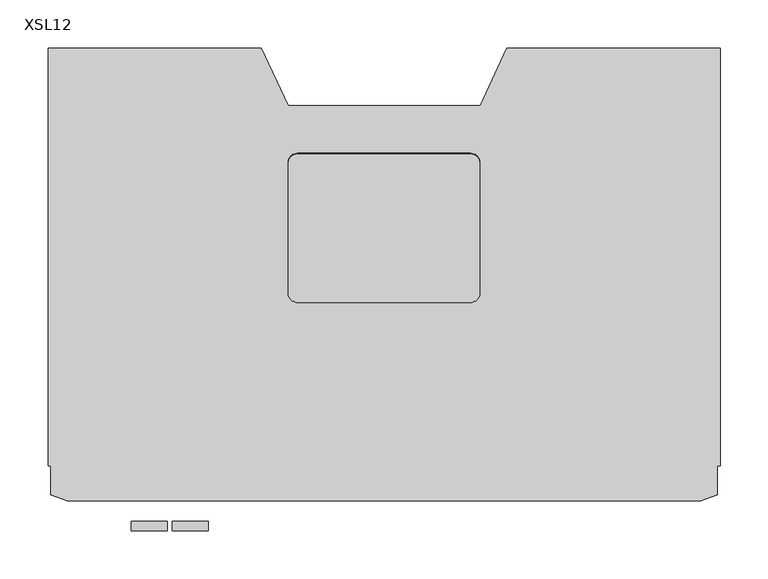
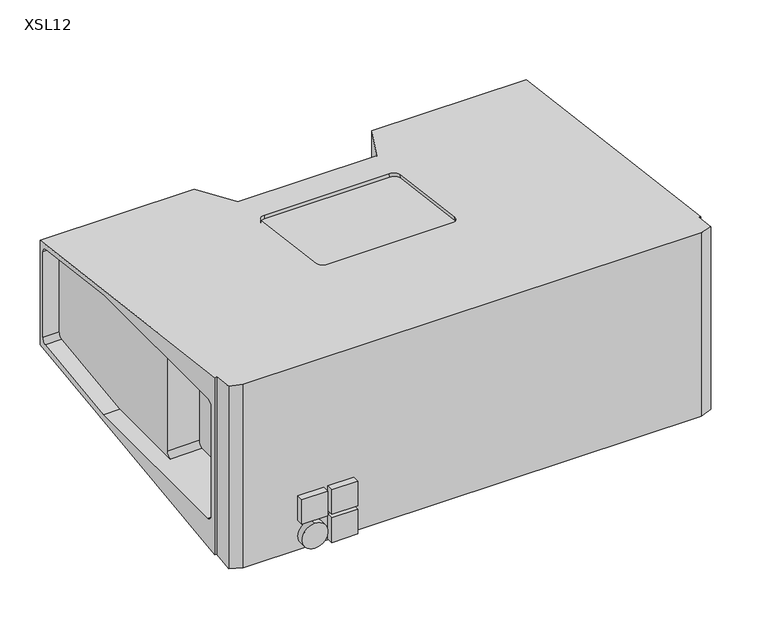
"""IFC4 building model written with IfcOpenShell, lengths in millimetres: proxy geometry, d&b SL-Series XSL : XSL12."""

from ifc_helpers import new_model, si_unit, point, frame, frame_2d, origin, place, context, project, spatial, polyline, circle_curve, trimmed, segment, composite_curve, outline, extrude, source, transform, mapped, element, save
from ifc_brep_helpers import plane_surface, revolved_surface, advanced_brep


def xsl12_ee73a5ce(model_context):
    return source(origin(), model_context, "Body", "SolidModel", [
        advanced_brep(
        [(170.2405547, -330.1244027, 146.1842209), (170.2405547, -330.1244027, -133.052445), (829.7594453, -330.1244027, -133.052445), (829.7594453, -330.1244027, 146.1842209), (153.0, -323.849354, -132.2541577), (153.0, -323.849354, 145.3859339), (153.0, -294.0371274, 141.5933401), (153.0, -294.0371274, -128.4615623), (847.0, -323.849354, -132.2541577), (847.0, -323.849354, 145.3859339), (847.0, -294.0371274, -128.4615623), (847.0, -294.0371274, 141.5933401), (850.0, -294.0371274, 141.5933401), (850.0, 141.8755973, 86.1382428), (627.9784595, 141.8755973, 86.1382428), (600.0, 81.8755973, 93.7712061), (400.0, 81.8755973, 93.7712061), (372.0215405, 141.8755973, 86.1382428), (150.0, 141.8755973, 86.1382428), (150.0, -294.0371274, 141.5933401), (599.8603516, -113.5250804, 118.6293095), (589.8603516, -123.4451299, 119.8912991), (410.1396484, -123.4451299, 119.8912991), (400.1396484, -113.5250804, 118.6293095), (400.1396484, 22.2372063, 101.3581669), (410.1396484, 32.1572558, 100.0961774), (589.8603516, 32.1572558, 100.0961774), (599.8603516, 22.2372063, 101.3581669), (150.0, -294.0371274, -128.4615623), (150.0, 141.8755973, -73.0064423), (188.4702084, 141.8755973, -73.0064423), (184.5040319, 103.3755973, -77.9042624), (348.3071546, 103.3755973, -77.9042624), (348.1361189, 141.8755973, -73.0064423), (372.0215405, 141.8755973, -73.0064423), (400.0, 81.8755973, -80.6394088), (600.0, 81.8755973, -80.6394088), (627.9784595, 141.8755973, -73.0064423), (651.8638811, 141.8755973, -73.0064423), (651.6928454, 103.3755973, -77.9042624), (815.4959681, 103.3755973, -77.9042624), (811.5297916, 141.8755973, -73.0064423), (850.0, 141.8755973, -73.0064423), (850.0, -294.0371274, -128.4615623), (780.0, -276.3744027, 99.0485291), (780.0, -283.8744027, 91.5485291), (780.0, -283.8744027, -75.4514709), (780.0, -276.3744027, -82.9514709), (780.0, -141.8744027, -82.9514709), (780.0, -134.3744027, -75.4514709), (780.0, -134.3744027, 91.5485291), (780.0, -141.8744027, 99.0485291), (220.0, -283.8744027, 91.5485291), (220.0, -276.3744027, 99.0485291), (220.0, -141.8744027, 99.0485291), (220.0, -134.3744027, 91.5485291), (220.0, -134.3744027, -75.4514709), (220.0, -141.8744027, -82.9514709), (220.0, -276.3744027, -82.9514709), (220.0, -283.8744027, -75.4514709), (797.6572273, 141.8755973, -55.8752521), (782.1143081, 141.8755973, -48.46166), (662.3778915, 141.8755973, -48.46166), (652.3839833, 141.8755973, -58.112665), (787.6572273, 141.8755973, -15.0), (797.6572273, 141.8755973, -5.0), (797.6572273, 141.8755973, 40.0), (787.6572273, 141.8755973, 50.0), (670.0, 141.8755973, 50.0), (660.0, 141.8755973, 40.0), (660.0, 141.8755973, -5.0), (670.0, 141.8755973, -15.0), (347.6160167, 141.8755973, -58.112665), (337.6221085, 141.8755973, -48.46166), (217.8856919, 141.8755973, -48.46166), (202.3427727, 141.8755973, -55.8752521), (202.3427727, 141.8755973, 40.0), (202.3427727, 141.8755973, -5.0), (212.3427727, 141.8755973, -15.0), (330.0, 141.8755973, -15.0), (340.0, 141.8755973, -5.0), (340.0, 141.8755973, 40.0), (330.0, 141.8755973, 50.0), (212.3427727, 141.8755973, 50.0), (826.4019238, -141.8744027, 99.0485291), (826.4019238, -134.3744027, 91.5485291), (826.4019238, -134.3744027, -75.4514709), (826.4019238, -141.8744027, -82.9514709), (826.4019238, -16.4238546, -82.9514709), (826.4019238, 128.1220886, -64.5629235), (826.4019238, 134.6755973, -57.1228863), (826.4019238, 134.6755973, 73.2200667), (826.4019238, 128.1220886, 80.6601039), (826.4019238, -16.422895, 99.0485291), (826.4019238, -276.3744027, 99.0485291), (826.4019238, -283.8744027, 91.5485291), (850.0, -283.8744027, 91.5485291), (850.0, -283.8744027, -75.4514709), (826.4019238, -283.8744027, -75.4514709), (826.4019238, -276.3744027, -82.9514709), (850.0, -276.3744027, -82.9514709), (850.0, -16.4238546, -82.9514709), (850.0, -16.422895, 99.0485291), (850.0, -276.3744027, 99.0485291), (850.0, 128.1220886, 80.6601039), (850.0, 134.6755973, 73.2200667), (850.0, 134.6755973, -57.1228863), (850.0, 128.1220886, -64.5629235), (173.5980762, -141.8744027, -82.9514709), (173.5980762, -134.3744027, -75.4514709), (173.5980762, -134.3744027, 91.5485291), (173.5980762, -141.8744027, 99.0485291), (173.5980762, -16.422895, 99.0485291), (173.5980762, 128.1220886, 80.6601039), (173.5980762, 134.6755973, 73.2200667), (173.5980762, 134.6755973, -57.1228863), (173.5980762, 128.1220886, -64.5629235), (173.5980762, -16.4238546, -82.9514709), (173.5980762, -283.8744027, 91.5485291), (173.5980762, -276.3744027, 99.0485291), (173.5980762, -283.8744027, -75.4514709), (150.0, -283.8744027, -75.4514709), (150.0, -283.8744027, 91.5485291), (173.5980762, -276.3744027, -82.9514709), (150.0, -16.4238546, -82.9514709), (150.0, -276.3744027, -82.9514709), (150.0, -276.3744027, 99.0485291), (150.0, -16.422895, 99.0485291), (150.0, 128.1220886, -64.5629235), (150.0, 134.6755973, -57.1228863), (150.0, 134.6755973, 73.2200667), (150.0, 128.1220886, 80.6601039), (337.6221085, 103.3755973, -48.46166), (347.6160167, 103.3755973, -58.112665), (202.3427727, 103.3755973, -55.8752521), (217.8856919, 103.3755973, -48.46166), (662.3778915, 103.3755973, -48.46166), (782.1143081, 103.3755973, -48.46166), (797.6572273, 103.3755973, -55.8752521), (652.3839833, 103.3755973, -58.112665), (589.8603516, -124.0761247, 114.9312743), (599.8603516, -114.1560752, 113.6692848), (599.8603516, 21.6062115, 96.3981422), (589.8603516, 31.526261, 95.1361526), (410.1396484, 31.526261, 95.1361526), (400.1396484, 21.6062115, 96.3981422), (400.1396484, -114.1560752, 113.6692848), (410.1396484, -124.0761247, 114.9312743), (797.6572273, 136.8755973, -5.0), (787.6572273, 136.8755973, -15.0), (670.0, 136.8755973, -15.0), (660.0, 136.8755973, -5.0), (660.0, 136.8755973, 40.0), (670.0, 136.8755973, 50.0), (787.6572273, 136.8755973, 50.0), (797.6572273, 136.8755973, 40.0), (202.3427727, 136.8755973, -5.0), (202.3427727, 136.8755973, 40.0), (212.3427727, 136.8755973, 50.0), (330.0, 136.8755973, 50.0), (340.0, 136.8755973, 40.0), (340.0, 136.8755973, -5.0), (330.0, 136.8755973, -15.0), (212.3427727, 136.8755973, -15.0)],
        [
            (0, 1),
            (1, 2),
            (2, 3),
            (3, 0),
            (4, 5),
            (5, 6),
            (6, 7),
            (7, 4),
            (0, 5),
            (4, 1),
            (2, 8),
            (8, 9),
            (9, 3),
            (8, 10),
            (10, 11),
            (11, 9),
            (11, 12),
            (12, 13),
            (13, 14),
            (14, 15),
            (15, 16),
            (16, 17),
            (17, 18),
            (18, 19),
            (19, 6),
            (20, 21, circle_curve(frame((589.8603516, -113.5250804, 118.6293095), z_axis=(0.0, -0.12619895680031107, -0.9920049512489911), x_axis=(0.0, 0.9920049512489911, -0.12619895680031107)), 10.0)),
            (21, 22),
            (22, 23, circle_curve(frame((410.1396484, -113.5250804, 118.6293095), z_axis=(0.0, -0.12619895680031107, -0.9920049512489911), x_axis=(0.0, 0.9920049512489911, -0.12619895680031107)), 10.0)),
            (23, 24),
            (24, 25, circle_curve(frame((410.1396484, 22.2372063, 101.3581669), z_axis=(0.0, -0.12619895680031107, -0.9920049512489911), x_axis=(0.0, 0.9920049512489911, -0.12619895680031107)), 10.0)),
            (25, 26),
            (26, 27, circle_curve(frame((589.8603516, 22.2372063, 101.3581669), z_axis=(0.0, -0.12619895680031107, -0.9920049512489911), x_axis=(0.0, 0.9920049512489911, -0.12619895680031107)), 10.0)),
            (27, 20),
            (7, 28),
            (28, 29),
            (29, 30),
            (30, 31),
            (31, 32),
            (32, 33),
            (33, 34),
            (34, 35),
            (35, 36),
            (36, 37),
            (37, 38),
            (38, 39),
            (39, 40),
            (40, 41),
            (41, 42),
            (42, 43),
            (43, 10),
            (44, 45, circle_curve(frame((780.0, -276.3744027, 91.5485291), z_axis=(1.0, 0.0, 0.0), x_axis=(0.0, 1.0, 0.0)), 7.5)),
            (45, 46),
            (46, 47, circle_curve(frame((780.0, -276.3744027, -75.4514709), z_axis=(1.0, 0.0, 0.0), x_axis=(0.0, 1.0, 0.0)), 7.5)),
            (47, 48),
            (48, 49, circle_curve(frame((780.0, -141.8744027, -75.4514709), z_axis=(1.0, 0.0, 0.0), x_axis=(0.0, 1.0, 0.0)), 7.5)),
            (49, 50),
            (50, 51, circle_curve(frame((780.0, -141.8744027, 91.5485291), z_axis=(1.0, 0.0, 0.0), x_axis=(0.0, 1.0, 0.0)), 7.5)),
            (51, 44),
            (52, 53, circle_curve(frame((220.0, -276.3744027, 91.5485291), z_axis=(-1.0, 0.0, 0.0), x_axis=(0.0, 1.0, 0.0)), 7.5)),
            (53, 54),
            (54, 55, circle_curve(frame((220.0, -141.8744027, 91.5485291), z_axis=(-1.0, 0.0, 0.0), x_axis=(0.0, 1.0, 0.0)), 7.5)),
            (55, 56),
            (56, 57, circle_curve(frame((220.0, -141.8744027, -75.4514709), z_axis=(-1.0, 0.0, 0.0), x_axis=(0.0, 1.0, 0.0)), 7.5)),
            (57, 58),
            (58, 59, circle_curve(frame((220.0, -276.3744027, -75.4514709), z_axis=(-1.0, 0.0, 0.0), x_axis=(0.0, 1.0, 0.0)), 7.5)),
            (59, 52),
            (37, 14),
            (13, 42),
            (41, 60),
            (60, 61, circle_curve(frame((782.1143081, 141.8755973, -68.46166), z_axis=(0.0, -1.0, 0.0), x_axis=(-1.0, 0.0, 0.0)), 20.0)),
            (61, 62),
            (62, 63, circle_curve(frame((662.3778915, 141.8755973, -58.46166), z_axis=(0.0, -1.0, 0.0), x_axis=(-1.0, 0.0, 0.0)), 10.0)),
            (63, 38),
            (64, 65, circle_curve(frame((787.6572273, 141.8755973, -5.0), z_axis=(0.0, -1.0, 0.0), x_axis=(0.0, 0.0, 1.0)), 10.0)),
            (65, 66),
            (66, 67, circle_curve(frame((787.6572273, 141.8755973, 40.0), z_axis=(0.0, -1.0, 0.0), x_axis=(0.0, 0.0, 1.0)), 10.0)),
            (67, 68),
            (68, 69, circle_curve(frame((670.0, 141.8755973, 40.0), z_axis=(0.0, -1.0, 0.0), x_axis=(0.0, 0.0, 1.0)), 10.0)),
            (69, 70),
            (70, 71, circle_curve(frame((670.0, 141.8755973, -5.0), z_axis=(0.0, -1.0, 0.0), x_axis=(0.0, 0.0, 1.0)), 10.0)),
            (71, 64),
            (17, 34),
            (33, 72),
            (72, 73, circle_curve(frame((337.6221085, 141.8755973, -58.46166), z_axis=(0.0, -1.0, 0.0), x_axis=(-1.0, 0.0, 0.0)), 10.0)),
            (73, 74),
            (74, 75, circle_curve(frame((217.8856919, 141.8755973, -68.46166), z_axis=(0.0, -1.0, 0.0), x_axis=(-1.0, 0.0, 0.0)), 20.0)),
            (75, 30),
            (29, 18),
            (76, 77),
            (77, 78, circle_curve(frame((212.3427727, 141.8755973, -5.0), z_axis=(0.0, -1.0, 0.0), x_axis=(0.0, 0.0, 1.0)), 10.0)),
            (78, 79),
            (79, 80, circle_curve(frame((330.0, 141.8755973, -5.0), z_axis=(0.0, -1.0, 0.0), x_axis=(0.0, 0.0, 1.0)), 10.0)),
            (80, 81),
            (81, 82, circle_curve(frame((330.0, 141.8755973, 40.0), z_axis=(0.0, -1.0, 0.0), x_axis=(0.0, 0.0, 1.0)), 10.0)),
            (82, 83),
            (83, 76, circle_curve(frame((212.3427727, 141.8755973, 40.0), z_axis=(0.0, -1.0, 0.0), x_axis=(0.0, 0.0, 1.0)), 10.0)),
            (84, 85, circle_curve(frame((826.4019238, -141.8744027, 91.5485291), z_axis=(-1.0, 0.0, 0.0), x_axis=(0.0, 1.0, 0.0)), 7.5)),
            (85, 86),
            (86, 87, circle_curve(frame((826.4019238, -141.8744027, -75.4514709), z_axis=(-1.0, 0.0, 0.0), x_axis=(0.0, 1.0, 0.0)), 7.5)),
            (87, 88),
            (88, 89),
            (89, 90, circle_curve(frame((826.4019238, 127.1755973, -57.1228863), z_axis=(1.0, 0.0, 0.0), x_axis=(0.0, 1.0, 0.0)), 7.5)),
            (90, 91),
            (91, 92, circle_curve(frame((826.4019238, 127.1755973, 73.2200667), z_axis=(1.0, 0.0, 0.0), x_axis=(0.0, 1.0, 0.0)), 7.5)),
            (92, 93),
            (93, 84),
            (44, 94),
            (94, 95, circle_curve(frame((826.4019238, -276.3744027, 91.5485291), z_axis=(1.0, 0.0, 0.0), x_axis=(0.0, 1.0, 0.0)), 7.5)),
            (95, 45),
            (95, 96),
            (96, 97),
            (97, 98),
            (98, 46),
            (98, 99, circle_curve(frame((826.4019238, -276.3744027, -75.4514709), z_axis=(1.0, 0.0, 0.0), x_axis=(0.0, 1.0, 0.0)), 7.5)),
            (99, 47),
            (99, 100),
            (100, 101),
            (101, 88),
            (87, 48),
            (86, 49),
            (85, 50),
            (84, 51),
            (93, 102),
            (102, 103),
            (103, 94),
            (35, 16),
            (15, 36),
            (12, 43),
            (102, 104),
            (104, 105, circle_curve(frame((850.0, 127.1755973, 73.2200667), z_axis=(-1.0, 0.0, 0.0), x_axis=(0.0, 1.0, 0.0)), 7.5)),
            (105, 106),
            (106, 107, circle_curve(frame((850.0, 127.1755973, -57.1228863), z_axis=(-1.0, 0.0, 0.0), x_axis=(0.0, 1.0, 0.0)), 7.5)),
            (107, 101),
            (100, 97, circle_curve(frame((850.0, -276.3744027, -75.4514709), z_axis=(-1.0, 0.0, 0.0), x_axis=(0.0, 1.0, 0.0)), 7.5)),
            (96, 103, circle_curve(frame((850.0, -276.3744027, 91.5485291), z_axis=(-1.0, 0.0, 0.0), x_axis=(0.0, 1.0, 0.0)), 7.5)),
            (107, 89),
            (105, 91),
            (90, 106),
            (92, 104),
            (108, 109, circle_curve(frame((173.5980762, -141.8744027, -75.4514709), z_axis=(1.0, 0.0, 0.0), x_axis=(0.0, 1.0, 0.0)), 7.5)),
            (109, 110),
            (110, 111, circle_curve(frame((173.5980762, -141.8744027, 91.5485291), z_axis=(1.0, 0.0, 0.0), x_axis=(0.0, 1.0, 0.0)), 7.5)),
            (111, 112),
            (112, 113),
            (113, 114, circle_curve(frame((173.5980762, 127.1755973, 73.2200667), z_axis=(-1.0, 0.0, 0.0), x_axis=(0.0, 1.0, 0.0)), 7.5)),
            (114, 115),
            (115, 116, circle_curve(frame((173.5980762, 127.1755973, -57.1228863), z_axis=(-1.0, 0.0, 0.0), x_axis=(0.0, 1.0, 0.0)), 7.5)),
            (116, 117),
            (117, 108),
            (52, 118),
            (118, 119, circle_curve(frame((173.5980762, -276.3744027, 91.5485291), z_axis=(-1.0, 0.0, 0.0), x_axis=(0.0, 1.0, 0.0)), 7.5)),
            (119, 53),
            (59, 120),
            (120, 121),
            (121, 122),
            (122, 118),
            (58, 123),
            (123, 120, circle_curve(frame((173.5980762, -276.3744027, -75.4514709), z_axis=(-1.0, 0.0, 0.0), x_axis=(0.0, 1.0, 0.0)), 7.5)),
            (57, 108),
            (117, 124),
            (124, 125),
            (125, 123),
            (56, 109),
            (55, 110),
            (54, 111),
            (119, 126),
            (126, 127),
            (127, 112),
            (28, 19),
            (126, 122, circle_curve(frame((150.0, -276.3744027, 91.5485291), z_axis=(1.0, 0.0, 0.0), x_axis=(0.0, 1.0, 0.0)), 7.5)),
            (121, 125, circle_curve(frame((150.0, -276.3744027, -75.4514709), z_axis=(1.0, 0.0, 0.0), x_axis=(0.0, 1.0, 0.0)), 7.5)),
            (124, 128),
            (128, 129, circle_curve(frame((150.0, 127.1755973, -57.1228863), z_axis=(1.0, 0.0, 0.0), x_axis=(0.0, 1.0, 0.0)), 7.5)),
            (129, 130),
            (130, 131, circle_curve(frame((150.0, 127.1755973, 73.2200667), z_axis=(1.0, 0.0, 0.0), x_axis=(0.0, 1.0, 0.0)), 7.5)),
            (131, 127),
            (116, 128),
            (129, 115),
            (114, 130),
            (131, 113),
            (132, 133, circle_curve(frame((337.6221085, 103.3755973, -58.46166), z_axis=(0.0, 1.0, 0.0), x_axis=(-1.0, 0.0, 0.0)), 10.0)),
            (133, 32),
            (31, 134),
            (134, 135, circle_curve(frame((217.8856919, 103.3755973, -68.46166), z_axis=(0.0, 1.0, 0.0), x_axis=(-1.0, 0.0, 0.0)), 20.0)),
            (135, 132),
            (136, 137),
            (137, 138, circle_curve(frame((782.1143081, 103.3755973, -68.46166), z_axis=(0.0, 1.0, 0.0), x_axis=(-1.0, 0.0, 0.0)), 20.0)),
            (138, 40),
            (39, 139),
            (139, 136, circle_curve(frame((662.3778915, 103.3755973, -58.46166), z_axis=(0.0, 1.0, 0.0), x_axis=(-1.0, 0.0, 0.0)), 10.0)),
            (132, 73),
            (72, 133),
            (75, 134),
            (74, 135),
            (136, 62),
            (61, 137),
            (60, 138),
            (63, 139),
            (140, 141, circle_curve(frame((589.8603516, -114.1560752, 113.6692848), z_axis=(0.0, 0.12619895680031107, 0.9920049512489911), x_axis=(0.0, 0.9920049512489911, -0.12619895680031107)), 10.0)),
            (141, 142),
            (142, 143, circle_curve(frame((589.8603516, 21.6062115, 96.3981422), z_axis=(0.0, 0.12619895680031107, 0.9920049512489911), x_axis=(0.0, 0.9920049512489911, -0.12619895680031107)), 10.0)),
            (143, 144),
            (144, 145, circle_curve(frame((410.1396484, 21.6062115, 96.3981422), z_axis=(0.0, 0.12619895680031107, 0.9920049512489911), x_axis=(0.0, 0.9920049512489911, -0.12619895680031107)), 10.0)),
            (145, 146),
            (146, 147, circle_curve(frame((410.1396484, -114.1560752, 113.6692848), z_axis=(0.0, 0.12619895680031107, 0.9920049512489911), x_axis=(0.0, 0.9920049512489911, -0.12619895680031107)), 10.0)),
            (147, 140),
            (140, 21),
            (20, 141),
            (27, 142),
            (26, 143),
            (25, 144),
            (24, 145),
            (23, 146),
            (22, 147),
            (148, 149, circle_curve(frame((787.6572273, 136.8755973, -5.0), z_axis=(0.0, 1.0, 0.0), x_axis=(0.0, 0.0, 1.0)), 10.0)),
            (149, 150),
            (150, 151, circle_curve(frame((670.0, 136.8755973, -5.0), z_axis=(0.0, 1.0, 0.0), x_axis=(0.0, 0.0, 1.0)), 10.0)),
            (151, 152),
            (152, 153, circle_curve(frame((670.0, 136.8755973, 40.0), z_axis=(0.0, 1.0, 0.0), x_axis=(0.0, 0.0, 1.0)), 10.0)),
            (153, 154),
            (154, 155, circle_curve(frame((787.6572273, 136.8755973, 40.0), z_axis=(0.0, 1.0, 0.0), x_axis=(0.0, 0.0, 1.0)), 10.0)),
            (155, 148),
            (156, 157),
            (157, 158, circle_curve(frame((212.3427727, 136.8755973, 40.0), z_axis=(0.0, 1.0, 0.0), x_axis=(0.0, 0.0, 1.0)), 10.0)),
            (158, 159),
            (159, 160, circle_curve(frame((330.0, 136.8755973, 40.0), z_axis=(0.0, 1.0, 0.0), x_axis=(0.0, 0.0, 1.0)), 10.0)),
            (160, 161),
            (161, 162, circle_curve(frame((330.0, 136.8755973, -5.0), z_axis=(0.0, 1.0, 0.0), x_axis=(0.0, 0.0, 1.0)), 10.0)),
            (162, 163),
            (163, 156, circle_curve(frame((212.3427727, 136.8755973, -5.0), z_axis=(0.0, 1.0, 0.0), x_axis=(0.0, 0.0, 1.0)), 10.0)),
            (148, 65),
            (64, 149),
            (71, 150),
            (70, 151),
            (69, 152),
            (68, 153),
            (67, 154),
            (66, 155),
            (156, 77),
            (76, 157),
            (83, 158),
            (82, 159),
            (81, 160),
            (80, 161),
            (79, 162),
            (78, 163),
        ],
        [
            plane_surface(frame((170.2405547, -330.1244027, 200.0), z_axis=(0.0, -1.0, 0.0), x_axis=(0.0, 0.0, -1.0))),
            plane_surface(frame((153.0, -294.0371274, 200.0), z_axis=(-1.0, 0.0, 0.0), x_axis=(0.0, 0.0, -1.0))),
            plane_surface(frame((153.0, -323.849354, 200.0), z_axis=(-0.34202014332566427, -0.93969262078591, 0.0), x_axis=(0.0, 0.0, -1.0))),
            plane_surface(frame((829.7594453, -330.1244027, 200.0), z_axis=(0.3420201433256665, -0.9396926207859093, 0.0), x_axis=(0.0, 0.0, -1.0))),
            plane_surface(frame((847.0, -323.849354, 200.0), z_axis=(1.0, 0.0, 0.0), x_axis=(0.0, 0.0, -1.0))),
            plane_surface(frame((900.0, -397.1791753, 154.7146646), z_axis=(0.0, 0.12619895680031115, 0.9920049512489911), x_axis=(-1.0, 0.0, 0.0))),
            plane_surface(frame((900.0, -259.9156739, -124.1207638), z_axis=(0.0, 0.12619900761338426, -0.9920049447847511), x_axis=(-1.0, 0.0, 0.0))),
            plane_surface(frame((780.0, -540.9167318, -159.8686246), z_axis=(1.0, 0.0, 0.0), x_axis=(0.0, 0.9920049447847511, 0.12619900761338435))),
            plane_surface(frame((220.0, -540.9167318, -159.8686246), z_axis=(-1.0, 0.0, 0.0), x_axis=(0.0, -0.9920049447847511, -0.12619900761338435))),
            plane_surface(frame((780.0, 141.8755973, -73.0064423), z_axis=(0.0, 1.0, 0.0), x_axis=(-1.0, 0.0, 0.0))),
            plane_surface(frame((826.4019238, -294.0371274, 191.9850007), z_axis=(1.0, 0.0, 0.0), x_axis=(0.0, 0.0, -1.0))),
            revolved_surface(polyline([(826.4019238, -268.8744027, 91.5485291), (780.0, -268.8744027, 91.5485291)]), (469.3, -276.3744027, 91.5485291), (1.0, 0.0, 0.0)),
            plane_surface(frame((780.0, -283.8744027, 91.5485291), z_axis=(0.0, 1.0, 0.0), x_axis=(1.0, 0.0, 0.0))),
            revolved_surface(polyline([(826.4019238, -268.8744027, -75.4514709), (780.0, -268.8744027, -75.4514709)]), (469.3, -276.3744027, -75.4514709), (1.0, 0.0, 0.0)),
            plane_surface(frame((780.0, -276.3744027, -82.9514709), z_axis=(0.0, 0.0, 1.0), x_axis=(1.0, 0.0, 0.0))),
            revolved_surface(polyline([(826.4019238, -134.3744027, -75.4514709), (780.0, -134.3744027, -75.4514709)]), (469.3, -141.8744027, -75.4514709), (1.0, 0.0, 0.0)),
            plane_surface(frame((780.0, -134.3744027, -75.4514709), z_axis=(0.0, -1.0, 0.0), x_axis=(1.0, 0.0, 0.0))),
            revolved_surface(polyline([(826.4019238, -134.3744027, 91.5485291), (780.0, -134.3744027, 91.5485291)]), (469.3, -141.8744027, 91.5485291), (1.0, 0.0, 0.0)),
            plane_surface(frame((780.0, -141.8744027, 99.0485291), z_axis=(0.0, 0.0, -1.0), x_axis=(1.0, 0.0, 0.0))),
            plane_surface(frame((400.0, 81.8755973, 250.0), z_axis=(0.0, 1.0, 0.0), x_axis=(0.0, 0.0, -1.0))),
            plane_surface(frame((600.0, 81.8755973, 250.0), z_axis=(-0.9063077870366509, 0.42261826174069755, 0.0), x_axis=(0.0, 0.0, -1.0))),
            plane_surface(frame((323.4204404, 246.1009928, 250.0), z_axis=(0.906307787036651, 0.4226182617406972, 0.0), x_axis=(0.0, 0.0, -1.0))),
            plane_surface(frame((850.0, -294.0371274, 191.9850007), z_axis=(1.0, 0.0, 0.0), x_axis=(0.0, 0.0, -1.0))),
            plane_surface(frame((826.4019238, -294.0371274, -128.4615623), z_axis=(0.0, -1.0, 0.0), x_axis=(1.0, 0.0, 0.0))),
            revolved_surface(polyline([(850.0, -268.8744027, 91.5485291), (826.4019238, -268.8744027, 91.5485291)]), (500.0, -276.3744027, 91.5485291), (1.0, 0.0, 0.0)),
            revolved_surface(polyline([(850.0, -268.8744027, -75.4514709), (826.4019238, -268.8744027, -75.4514709)]), (500.0, -276.3744027, -75.4514709), (1.0, 0.0, 0.0)),
            plane_surface(frame((826.4019238, -16.4238546, -82.9514709), z_axis=(0.0, -0.12619883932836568, 0.9920049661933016), x_axis=(1.0, 0.0, 0.0))),
            plane_surface(frame((826.4019238, 134.6755973, -57.1228863), z_axis=(0.0, -1.0, 0.0), x_axis=(1.0, 0.0, 0.0))),
            plane_surface(frame((826.4019238, 128.1220886, 80.6601039), z_axis=(0.0, -0.1261988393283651, -0.9920049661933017), x_axis=(1.0, 0.0, 0.0))),
            revolved_surface(polyline([(850.0, 134.6755973, -57.1228863), (826.4019238, 134.6755973, -57.1228863)]), (500.0, 127.1755973, -57.1228863), (1.0, 0.0, 0.0)),
            revolved_surface(polyline([(850.0, 134.6755973, 73.2200667), (826.4019238, 134.6755973, 73.2200667)]), (500.0, 127.1755973, 73.2200667), (1.0, 0.0, 0.0)),
            plane_surface(frame((173.5980762, -540.9167318, -159.8686246), z_axis=(-1.0, 0.0, 0.0), x_axis=(0.0, -0.9920049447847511, -0.1261990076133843))),
            revolved_surface(polyline([(173.59807620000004, -268.8744027, 91.5485291), (220.0, -268.8744027, 91.5485291)]), (530.7, -276.3744027, 91.5485291), (-1.0, 0.0, 0.0)),
            plane_surface(frame((220.0, -283.8744027, -75.4514709), z_axis=(0.0, 1.0, 0.0), x_axis=(-1.0, 0.0, 0.0))),
            revolved_surface(polyline([(173.59807620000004, -268.8744027, -75.4514709), (220.0, -268.8744027, -75.4514709)]), (530.7, -276.3744027, -75.4514709), (-1.0, 0.0, 0.0)),
            plane_surface(frame((220.0, -141.8744027, -82.9514709), z_axis=(0.0, 0.0, 1.0), x_axis=(-1.0, 0.0, 0.0))),
            revolved_surface(polyline([(173.59807620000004, -134.3744027, -75.4514709), (220.0, -134.3744027, -75.4514709)]), (530.7, -141.8744027, -75.4514709), (-1.0, 0.0, 0.0)),
            plane_surface(frame((220.0, -134.3744027, 91.5485291), z_axis=(0.0, -1.0, 0.0), x_axis=(-1.0, 0.0, 0.0))),
            revolved_surface(polyline([(173.59807620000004, -134.3744027, 91.5485291), (220.0, -134.3744027, 91.5485291)]), (530.7, -141.8744027, 91.5485291), (-1.0, 0.0, 0.0)),
            plane_surface(frame((220.0, -276.3744027, 99.0485291), z_axis=(0.0, 0.0, -1.0), x_axis=(-1.0, 0.0, 0.0))),
            plane_surface(frame((150.0, -540.9167318, -159.8686246), z_axis=(-1.0000000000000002, 0.0, 0.0), x_axis=(0.0, -0.9920049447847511, -0.1261990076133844))),
            plane_surface(frame((173.5980762, -294.0371274, 141.5933401), z_axis=(0.0, -1.0, 0.0), x_axis=(-1.0, 0.0, 0.0))),
            revolved_surface(polyline([(150.0, -268.8744027, 91.5485291), (173.59807620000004, -268.8744027, 91.5485291)]), (500.0, -276.3744027, 91.5485291), (-1.0, 0.0, 0.0)),
            revolved_surface(polyline([(150.0, -268.8744027, -75.4514709), (173.59807620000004, -268.8744027, -75.4514709)]), (500.0, -276.3744027, -75.4514709), (-1.0, 0.0, 0.0)),
            plane_surface(frame((173.5980762, 128.1220886, -64.5629235), z_axis=(0.0, -0.1261988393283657, 0.9920049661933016), x_axis=(-1.0, 0.0, 0.0))),
            plane_surface(frame((173.5980762, 134.6755973, 73.2200667), z_axis=(0.0, -1.0, 0.0), x_axis=(-1.0, 0.0, 0.0))),
            plane_surface(frame((173.5980762, -16.422895, 99.0485291), z_axis=(0.0, -0.1261988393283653, -0.9920049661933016), x_axis=(-1.0, 0.0, 0.0))),
            revolved_surface(polyline([(150.0, 134.6755973, 73.2200667), (173.59807620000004, 134.6755973, 73.2200667)]), (500.0, 127.1755973, 73.2200667), (-1.0, 0.0, 0.0)),
            revolved_surface(polyline([(150.0, 134.6755973, -57.1228863), (173.59807620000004, 134.6755973, -57.1228863)]), (500.0, 127.1755973, -57.1228863), (-1.0, 0.0, 0.0)),
            plane_surface(frame((327.6221085, 103.3755973, -58.46166), z_axis=(0.0, 1.0, 0.0), x_axis=(0.0, 0.0, -1.0))),
            revolved_surface(polyline([(327.6221085, 141.8755973, -58.46166), (327.6221085, 103.3755973, -58.46166)]), (337.6221085, 103.3755973, -58.46166), (0.0, 1.0, 0.0)),
            plane_surface(frame((347.6160167, 141.8755973, -58.112665), z_axis=(-0.9993908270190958, 0.0, -0.03489949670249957), x_axis=(0.0, -1.0, 0.0))),
            plane_surface(frame((179.1870516, 141.8755973, -84.4701863), z_axis=(0.7771459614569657, 0.0, -0.629320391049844), x_axis=(0.0, -1.0, 0.0))),
            revolved_surface(polyline([(197.8856919, 141.8755973, -68.46166), (197.8856919, 103.3755973, -68.46166)]), (217.8856919, 103.3755973, -68.46166), (0.0, 1.0, 0.0)),
            plane_surface(frame((217.8856919, 141.8755973, -48.46166), z_axis=(0.0, 0.0, -1.0), x_axis=(0.0, -1.0, 0.0))),
            plane_surface(frame((662.3778915, 141.8755973, -48.46166), z_axis=(0.0, 0.0, -1.0), x_axis=(0.0, -1.0, 0.0))),
            revolved_surface(polyline([(762.1143081, 141.8755973, -68.46166), (762.1143081, 103.3755973, -68.46166)]), (782.1143081, 150.1255973, -68.46166), (0.0, 1.0, 0.0)),
            plane_surface(frame((797.6572273, 141.8755973, -55.8752521), z_axis=(-0.7771459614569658, 0.0, -0.6293203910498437), x_axis=(0.0, -1.0, 0.0))),
            plane_surface(frame((651.4635583, 141.8755973, -84.4701863), z_axis=(0.9993908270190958, 0.0, -0.034899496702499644), x_axis=(0.0, -1.0, 0.0))),
            revolved_surface(polyline([(652.3778915, 141.8755973, -58.46166), (652.3778915, 103.3755973, -58.46166)]), (662.3778915, 150.1255973, -58.46166), (0.0, 1.0, 0.0)),
            plane_surface(frame((589.8603516, -104.2360257, 112.4072952), z_axis=(0.0, 0.12619895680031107, 0.9920049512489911), x_axis=(1.0, 0.0, 0.0))),
            revolved_surface(polyline([(589.8603516, -103.60503090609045, 117.3673199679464), (589.8603516, -104.23602569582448, 112.40729516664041)]), (589.8603516, -114.1560752, 113.6692848), (0.0, 0.12619895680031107, 0.9920049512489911)),
            plane_surface(frame((599.8603516, -113.5250804, 118.6293095), z_axis=(-1.0, 0.0, 0.0), x_axis=(0.0, -0.12619895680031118, -0.9920049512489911))),
            revolved_surface(polyline([(589.8603516, 32.15725579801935, 100.09617740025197), (589.8603516, 31.526261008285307, 95.13615259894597)]), (589.8603516, 21.6062115, 96.3981422), (0.0, 0.12619895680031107, 0.9920049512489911)),
            plane_surface(frame((589.8603516, 32.1572558, 100.0961774), z_axis=(0.0, -0.9920049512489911, 0.12619895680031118), x_axis=(0.0, -0.12619895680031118, -0.9920049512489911))),
            revolved_surface(polyline([(410.1396484, 32.15725579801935, 100.09617740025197), (410.1396484, 31.526261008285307, 95.13615259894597)]), (410.1396484, 21.6062115, 96.3981422), (0.0, 0.12619895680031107, 0.9920049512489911)),
            plane_surface(frame((400.1396484, 22.2372063, 101.3581669), z_axis=(1.0, 0.0, 0.0), x_axis=(0.0, -0.12619895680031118, -0.9920049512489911))),
            revolved_surface(polyline([(410.1396484, -103.60503090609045, 117.3673199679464), (410.1396484, -104.23602569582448, 112.40729516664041)]), (410.1396484, -114.1560752, 113.6692848), (0.0, 0.12619895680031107, 0.9920049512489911)),
            plane_surface(frame((410.1396484, -123.4451299, 119.8912991), z_axis=(0.0, 0.9920049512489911, -0.12619895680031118), x_axis=(0.0, -0.12619895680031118, -0.9920049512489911))),
            plane_surface(frame((787.6572273, 136.8755973, 5.0), z_axis=(0.0, 1.0, 0.0), x_axis=(-1.0, 0.0, 0.0))),
            revolved_surface(polyline([(787.6572273, 141.8755973, 5.0), (787.6572273, 136.8755973, 5.0)]), (787.6572273, 136.8755973, -5.0), (0.0, 1.0, 0.0)),
            plane_surface(frame((787.6572273, 141.8755973, -15.0), z_axis=(0.0, 0.0, 1.0), x_axis=(0.0, -1.0, 0.0))),
            revolved_surface(polyline([(670.0, 141.8755973, 5.0), (670.0, 136.8755973, 5.0)]), (670.0, 136.8755973, -5.0), (0.0, 1.0, 0.0)),
            plane_surface(frame((660.0, 141.8755973, -5.0), z_axis=(1.0, 0.0, 0.0), x_axis=(0.0, -1.0, 0.0))),
            revolved_surface(polyline([(670.0, 141.8755973, 50.0), (670.0, 136.8755973, 50.0)]), (670.0, 136.8755973, 40.0), (0.0, 1.0, 0.0)),
            plane_surface(frame((670.0, 141.8755973, 50.0), z_axis=(0.0, 0.0, -1.0), x_axis=(0.0, -1.0, 0.0))),
            revolved_surface(polyline([(787.6572273, 141.8755973, 50.0), (787.6572273, 136.8755973, 50.0)]), (787.6572273, 136.8755973, 40.0), (0.0, 1.0, 0.0)),
            plane_surface(frame((797.6572273, 141.8755973, 40.0), z_axis=(-1.0, 0.0, 0.0), x_axis=(0.0, -1.0, 0.0))),
            plane_surface(frame((202.3427727, 141.8755973, -5.0), z_axis=(1.0, 0.0, 0.0), x_axis=(0.0, -1.0, 0.0))),
            revolved_surface(polyline([(212.3427727, 141.8755973, 50.0), (212.3427727, 136.8755973, 50.0)]), (212.3427727, 141.8755973, 40.0), (0.0, 1.0, 0.0)),
            plane_surface(frame((212.3427727, 141.8755973, 50.0), z_axis=(0.0, 0.0, -1.0), x_axis=(0.0, -1.0, 0.0))),
            revolved_surface(polyline([(330.0, 141.8755973, 50.0), (330.0, 136.8755973, 50.0)]), (330.0, 141.8755973, 40.0), (0.0, 1.0, 0.0)),
            plane_surface(frame((340.0, 141.8755973, 40.0), z_axis=(-1.0, 0.0, 0.0), x_axis=(0.0, -1.0, 0.0))),
            revolved_surface(polyline([(330.0, 141.8755973, 5.0), (330.0, 136.8755973, 5.0)]), (330.0, 141.8755973, -5.0), (0.0, 1.0, 0.0)),
            plane_surface(frame((330.0, 141.8755973, -15.0), z_axis=(0.0, 0.0, 1.0), x_axis=(0.0, -1.0, 0.0))),
            revolved_surface(polyline([(212.3427727, 141.8755973, 5.0), (212.3427727, 136.8755973, 5.0)]), (212.3427727, 141.8755973, -5.0), (0.0, 1.0, 0.0)),
        ],
        [
            (0, [[1, 2, 3, 4]]),
            (1, [[5, 6, 7, 8]]),
            (2, [[-1, 9, -5, 10]]),
            (3, [[-3, 11, 12, 13]]),
            (4, [[-12, 14, 15, 16]]),
            (5, [[-4, -13, -16, 17, 18, 19, 20, 21, 22, 23, 24, 25, -6, -9], [26, 27, 28, 29, 30, 31, 32, 33]]),
            (6, [[-2, -10, -8, 34, 35, 36, 37, 38, 39, 40, 41, 42, 43, 44, 45, 46, 47, 48, 49, 50, -14, -11]]),
            (7, [[51, 52, 53, 54, 55, 56, 57, 58]]),
            (8, [[59, 60, 61, 62, 63, 64, 65, 66]]),
            (9, [[67, -19, 68, -48, 69, 70, 71, 72, 73, -44], [74, 75, 76, 77, 78, 79, 80, 81]]),
            (9, [[82, -40, 83, 84, 85, 86, 87, -36, 88, -23], [89, 90, 91, 92, 93, 94, 95, 96]]),
            (10, [[97, 98, 99, 100, 101, 102, 103, 104, 105, 106]]),
            (11, [[107, 108, 109, -51]]),
            (12, [[-109, 110, 111, 112, 113, -52]]),
            (13, [[-113, 114, 115, -53]]),
            (14, [[-115, 116, 117, 118, -100, 119, -54]]),
            (15, [[-99, 120, -55, -119]]),
            (16, [[-98, 121, -56, -120]]),
            (17, [[-97, 122, -57, -121]]),
            (18, [[-107, -58, -122, -106, 123, 124, 125]]),
            (19, [[126, -21, 127, -42]]),
            (20, [[-127, -20, -67, -43]]),
            (21, [[-126, -41, -82, -22]]),
            (22, [[-49, -68, -18, 128], [129, 130, 131, 132, 133, -117, 134, -111, 135, -124]]),
            (23, [[-128, -17, -15, -50]]),
            (24, [[-135, -110, -108, -125]]),
            (25, [[-134, -116, -114, -112]]),
            (26, [[-133, 136, -101, -118]]),
            (27, [[-131, 137, -103, 138]]),
            (28, [[-129, -123, -105, 139]]),
            (29, [[-132, -138, -102, -136]]),
            (30, [[-130, -139, -104, -137]]),
            (31, [[140, 141, 142, 143, 144, 145, 146, 147, 148, 149]]),
            (32, [[150, 151, 152, -59]]),
            (33, [[-150, -66, 153, 154, 155, 156]]),
            (34, [[-153, -65, 157, 158]]),
            (35, [[-157, -64, 159, -149, 160, 161, 162]]),
            (36, [[-140, -159, -63, 163]]),
            (37, [[-141, -163, -62, 164]]),
            (38, [[-142, -164, -61, 165]]),
            (39, [[-152, 166, 167, 168, -143, -165, -60]]),
            (40, [[169, -24, -88, -35], [-167, 170, -155, 171, -161, 172, 173, 174, 175, 176]]),
            (41, [[-169, -34, -7, -25]]),
            (42, [[-170, -166, -151, -156]]),
            (43, [[-171, -154, -158, -162]]),
            (44, [[-172, -160, -148, 177]]),
            (45, [[-174, 178, -146, 179]]),
            (46, [[-176, 180, -144, -168]]),
            (47, [[-175, -179, -145, -180]]),
            (48, [[-173, -177, -147, -178]]),
            (49, [[181, 182, -38, 183, 184, 185]]),
            (49, [[186, 187, 188, -46, 189, 190]]),
            (50, [[-181, 191, -84, 192]]),
            (51, [[-192, -83, -39, -182]]),
            (52, [[193, -183, -37, -87]]),
            (53, [[-184, -193, -86, 194]]),
            (54, [[-185, -194, -85, -191]]),
            (55, [[-186, 195, -71, 196]]),
            (56, [[-187, -196, -70, 197]]),
            (57, [[-197, -69, -47, -188]]),
            (58, [[198, -189, -45, -73]]),
            (59, [[-190, -198, -72, -195]]),
            (60, [[199, 200, 201, 202, 203, 204, 205, 206]]),
            (61, [[-199, 207, -26, 208]]),
            (62, [[-200, -208, -33, 209]]),
            (63, [[-201, -209, -32, 210]]),
            (64, [[-202, -210, -31, 211]]),
            (65, [[-203, -211, -30, 212]]),
            (66, [[-204, -212, -29, 213]]),
            (67, [[-205, -213, -28, 214]]),
            (68, [[-206, -214, -27, -207]]),
            (69, [[215, 216, 217, 218, 219, 220, 221, 222]]),
            (69, [[223, 224, 225, 226, 227, 228, 229, 230]]),
            (70, [[-215, 231, -74, 232]]),
            (71, [[-216, -232, -81, 233]]),
            (72, [[-217, -233, -80, 234]]),
            (73, [[-218, -234, -79, 235]]),
            (74, [[-219, -235, -78, 236]]),
            (75, [[-220, -236, -77, 237]]),
            (76, [[-221, -237, -76, 238]]),
            (77, [[-222, -238, -75, -231]]),
            (78, [[-223, 239, -89, 240]]),
            (79, [[-224, -240, -96, 241]]),
            (80, [[-225, -241, -95, 242]]),
            (81, [[-226, -242, -94, 243]]),
            (82, [[-227, -243, -93, 244]]),
            (83, [[-228, -244, -92, 245]]),
            (84, [[-229, -245, -91, 246]]),
            (85, [[-230, -246, -90, -239]]),
        ],
    ),
        extrude(outline(polyline([(236.4761951, -351.6244027), (273.9761951, -351.6244027), (273.9761951, -361.6244027), (236.4761951, -361.6244027), (236.4761951, -351.6244027)])), frame((0.0, 0.0, -71.0096005), z_axis=(0.0, 0.0, 1.0), x_axis=(1.0, 0.0, 0.0)), (0.0, 0.0, 1.0), 37.5),
        extrude(outline(polyline([(279.333338, -351.6244027), (316.833338, -351.6244027), (316.833338, -361.6244027), (279.333338, -361.6244027), (279.333338, -351.6244027)])), frame((0.0, 0.0, -71.0096005), z_axis=(0.0, 0.0, 1.0), x_axis=(1.0, 0.0, 0.0)), (0.0, 0.0, 1.0), 37.5),
        extrude(outline(polyline([(279.333338, -351.6244027), (316.833338, -351.6244027), (316.833338, -361.6244027), (279.333338, -361.6244027), (279.333338, -351.6244027)])), frame((0.0, 0.0, -113.8667433), z_axis=(0.0, 0.0, 1.0), x_axis=(1.0, 0.0, 0.0)), (0.0, 0.0, 1.0), 37.5),
        extrude(outline(composite_curve([segment(trimmed(circle_curve(frame_2d((-95.1167433, 255.2261951)), 18.75), [point((-76.3667433, 255.2261951))], [point((-113.8667433, 255.2261951))], False, "CARTESIAN"), True, "CONTINUOUS"), segment(trimmed(circle_curve(frame_2d((-95.1167433, 255.2261951)), 18.75), [point((-113.8667433, 255.2261951))], [point((-76.3667433, 255.2261951))], False, "CARTESIAN"), True, "CONTINUOUS")], self_intersect=False)), frame((0.0, -361.6244027, 0.0), z_axis=(0.0, 1.0, 0.0), x_axis=(0.0, 0.0, 1.0)), (0.0, 0.0, 1.0), 10.0),
    ])


if __name__ == "__main__":
    model = new_model("IFC4")
    model_context = context("Model", 3, world=origin())
    ifc_project = project(units=[si_unit("LENGTHUNIT", "METRE", prefix="MILLI")], contexts=[model_context])
    site = spatial("IfcSite", under=ifc_project)
    building = spatial("IfcBuilding", under=site)
    placement = place(None, origin())
    xsl12_shape = xsl12_ee73a5ce(model_context)
    element("IfcBuildingElementProxy", 1, Name="d&b SL-Series XSL : XSL12", ObjectType="d&b SL-Series XSL : XSL12", at=placement, inside=building, context=model_context, shape_type="MappedRepresentation", body=[
        mapped(xsl12_shape, transform((0.0, 0.0, 0.0), x_axis=(1.0, 0.0, 0.0), y_axis=(0.0, 1.0, 0.0), z_axis=(0.0, 0.0, 1.0))),
    ])
    save(model, "model.ifc")
